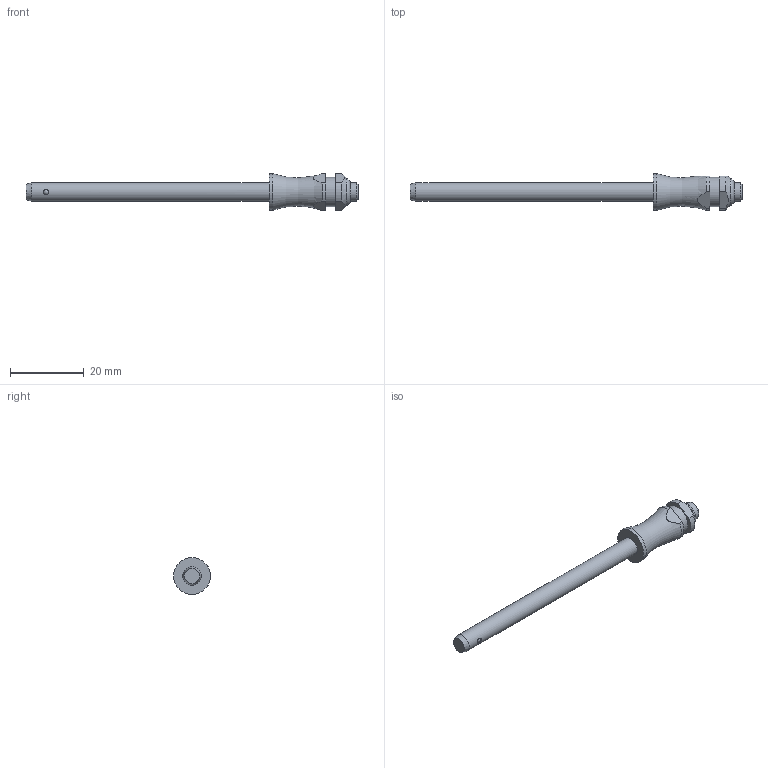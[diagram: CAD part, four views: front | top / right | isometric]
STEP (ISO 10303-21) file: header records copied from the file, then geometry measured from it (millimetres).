
FILE_DESCRIPTION( ( 'STEP AP203' ), '1' );
FILE_NAME( 'C:/Temp/Ganter_Step_05_03_2020/data/3_1/gn113_3/Stainless Steel-Ball lock pin GN 113.3-5-60 (activated).stp', '2020-03-12T08:18:13', ( 'License CC BY-ND 4.0' ), ( 'CADENAS' ), ' ', 'PARTsolutions', ' ' );
FILE_SCHEMA( ( 'CONFIG_CONTROL_DESIGN' ) );
Length unit declared in the file: millimetre
Products named in the file (1): _Stainless Steel-Ball lock pin GN 113.3-5-60 (activated)
Bounding box: 90.15 x 10 x 10 mm (x, y, z)
Volume: 2589.2 mm3; surface area: 1832 mm2
Topology: 1 solids, 1 shells, 31 faces, 73 edges, 46 vertices
Faces by surface type: plane 12, cylinder 12, cone 3, torus 2, sphere 2
Full cylindrical faces by diameter (mm): 1.5 x2, 5 x2, 7.9 x1, 10 x1
Entity records: 954 total; most frequent: CARTESIAN_POINT 290, DIRECTION 134, ORIENTED_EDGE 104, AXIS2_PLACEMENT_3D 58, EDGE_CURVE 52, EDGE_LOOP 48, VERTEX_POINT 40, FACE_OUTER_BOUND 39
